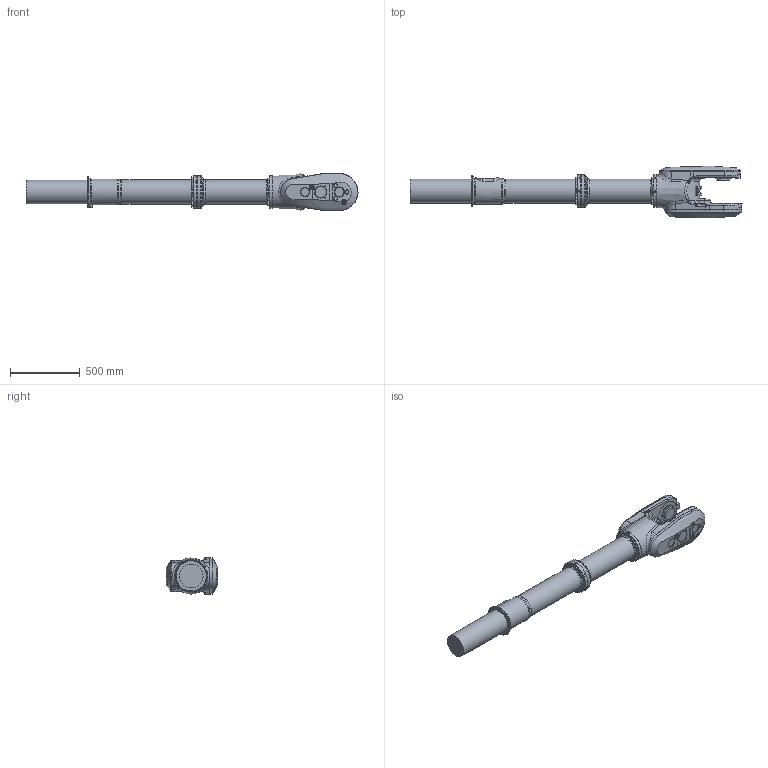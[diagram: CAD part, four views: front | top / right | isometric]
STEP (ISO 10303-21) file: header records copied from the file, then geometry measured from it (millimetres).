
FILE_DESCRIPTION (( 'STEP AP203' ), '1' );
FILE_NAME ('IRB6730S_All-400_OC_00_LINK04_CAD.step', '2025-12-19T13:20:24', ( '' ), ( '' ), 'SwSTEP 2.0', 'SolidWorks 2024', '' );
FILE_SCHEMA (( 'CONFIG_CONTROL_DESIGN' ));
Length unit declared in the file: millimetre
Products named in the file (1): IRB6730S_All-400_OC_00_LINK04_CAD
Bounding box: 2378.63 x 369.02 x 267.03 mm (x, y, z)
Volume: 74664474.7 mm3; surface area: 1851337.8 mm2
Topology: 1 solids, 1 shells, 622 faces, 1488 edges, 950 vertices
Faces by surface type: plane 297, cylinder 138, cone 98, bspline 65, torus 20, sphere 4
Full cylindrical faces by diameter (mm): 2.8 x1, 6.8 x8, 8.3 x2, 10.5 x2, 11.9 x1, 12 x4, 17.9 x1, 18 x1, 18.27 x28, 18.5 x1, 27 x2, 28 x3, 28.01 x1, 28.5 x2, 68 x1, 75 x1, 92 x1, 118 x1, 125 x1, 138.4 x1, 170 x1, 172 x2, 185 x1, 234 x4
Entity records: 25599 total; most frequent: CARTESIAN_POINT 12846, ORIENTED_EDGE 2600, DIRECTION 2360, EDGE_CURVE 1300, AXIS2_PLACEMENT_3D 911, VERTEX_POINT 904, EDGE_LOOP 846, FACE_OUTER_BOUND 708
